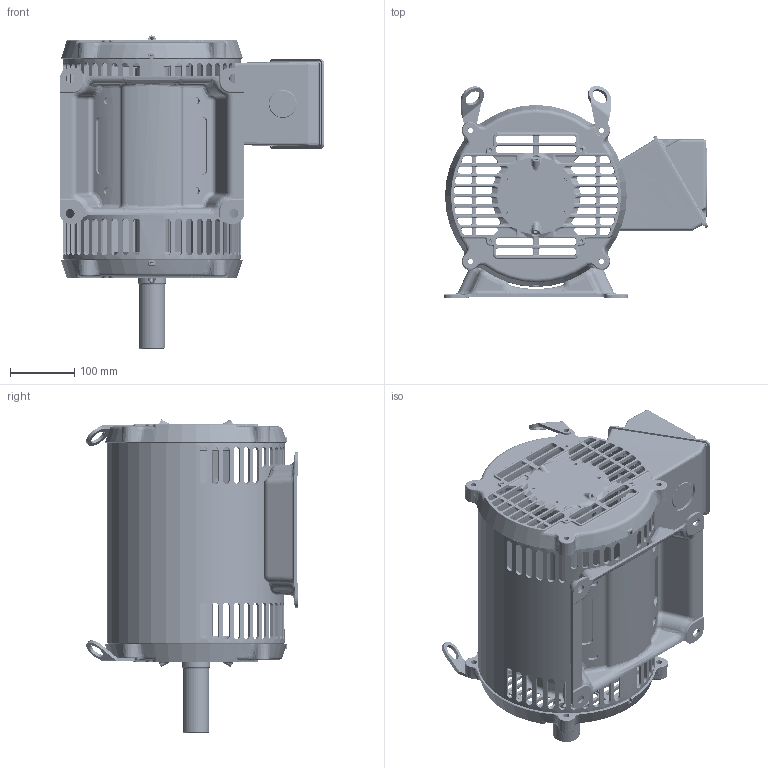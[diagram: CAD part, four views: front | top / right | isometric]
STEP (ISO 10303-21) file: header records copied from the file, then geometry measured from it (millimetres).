
FILE_DESCRIPTION((''),'2;1');
FILE_NAME('250_ODP_ASM_ASM','2016-08-05T',('emd2341'),('Nidec Motor Corporation'),'PRO/ENGINEER BY PARAMETRIC TECHNOLOGY CORPORATION, 2013150','PRO/ENGINEER BY PARAMETRIC TECHNOLOGY CORPORATION, 2013150','');
FILE_SCHEMA(('CONFIG_CONTROL_DESIGN'));
Length unit declared in the file: inch
Products named in the file (14): 2046004_AF0; 2028413-BKT_AF0; 2033996-005_AF0; 2028414_ASM; 2035295-BKT_AF0; 2033996-005_AF2; 2028415_ASM; 0172877; 2052343; 0369733; 0380742; 0364282; 0364292; 250_ODP_ASM_ASM
Assembly tree (14 placements, depth 3):
  250_ODP_ASM_ASM
    2046004_AF0
    2028414_ASM
      2028413-BKT_AF0
      2033996-005_AF0
    2028415_ASM
      2035295-BKT_AF0
      2033996-005_AF2
    0172877
    2052343
    0369733  x2
    0380742
    0364282
    0364292
Bounding box: 410.12 x 328.54 x 485.57 mm (x, y, z)
Volume: 3718941.3 mm3; surface area: 1419106.2 mm2
Topology: 14 solids, 14 shells, 4921 faces, 12112 edges, 7199 vertices
Faces by surface type: bspline 1782, cylinder 1322, plane 933, cone 425, torus 381, sphere 62, extrusion 16
Entity records: 243136 total; most frequent: CARTESIAN_POINT 140040, ORIENTED_EDGE 24084, DIRECTION 17841, EDGE_CURVE 12042, VERTEX_POINT 7175, AXIS2_PLACEMENT_3D 6983, EDGE_LOOP 5245, FACE_OUTER_BOUND 4903
